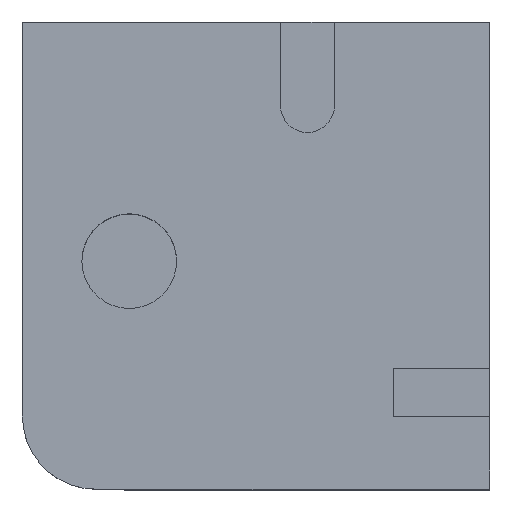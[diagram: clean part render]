
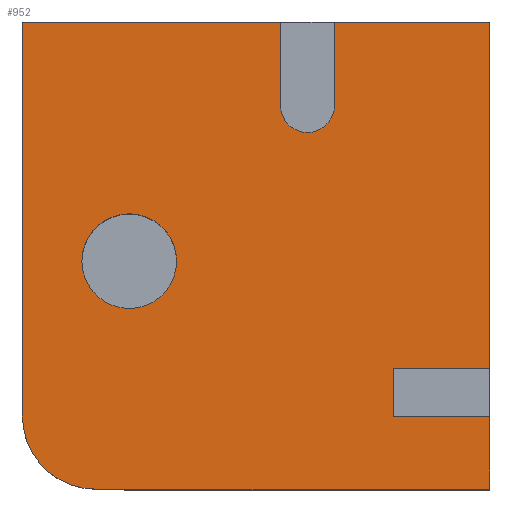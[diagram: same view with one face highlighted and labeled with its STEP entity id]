
A CAD part, top view. The second image highlights one B-rep face of the part: STEP entity #952.
In plain terms, the highlighted planar face has unit normal (0, 0, 1).
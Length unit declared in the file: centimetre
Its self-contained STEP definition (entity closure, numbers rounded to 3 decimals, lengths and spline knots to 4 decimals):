
#13 = LINE ( 'NONE', #1125, #657 ) ;
#14 = CARTESIAN_POINT ( 'NONE',  ( 667.8501, 1000., 1000. ) ) ;
#17 = EDGE_CURVE ( 'NONE', #1257, #1042, #36, .T. ) ;
#28 = EDGE_CURVE ( 'NONE', #159, #1042, #403, .T. ) ;
#36 = LINE ( 'NONE', #506, #847 ) ;
#54 = DIRECTION ( 'NONE',  ( 0., 1., 0. ) ) ;
#61 = EDGE_CURVE ( 'NONE', #1059, #1031, #13, .T. ) ;
#69 = VECTOR ( 'NONE', #1161, 100. ) ;
#71 = CARTESIAN_POINT ( 'NONE',  ( 1000., 1000., 1000. ) ) ;
#88 = VECTOR ( 'NONE', #1023, 100. ) ;
#90 = DIRECTION ( 'NONE',  ( 0., 0., 1. ) ) ;
#96 = DIRECTION ( 'NONE',  ( 1., 0., 0. ) ) ;
#101 = EDGE_CURVE ( 'NONE', #1031, #310, #1112, .T. ) ;
#105 = ORIENTED_EDGE ( 'NONE', *, *, #528, .F. ) ;
#111 = VECTOR ( 'NONE', #647, 100. ) ;
#115 = EDGE_CURVE ( 'NONE', #646, #119, #929, .T. ) ;
#119 = VERTEX_POINT ( 'NONE', #137 ) ;
#137 = CARTESIAN_POINT ( 'NONE',  ( 127.2873, 488.1504, 1000. ) ) ;
#152 = VERTEX_POINT ( 'NONE', #936 ) ;
#159 = VERTEX_POINT ( 'NONE', #550 ) ;
#170 = AXIS2_PLACEMENT_3D ( 'NONE', #1070, #966, #96 ) ;
#178 = CARTESIAN_POINT ( 'NONE',  ( 156.6822, 0., 1000. ) ) ;
#181 = EDGE_CURVE ( 'NONE', #152, #159, #1032, .T. ) ;
#188 = FACE_OUTER_BOUND ( 'NONE', #324, .T. ) ;
#195 = CARTESIAN_POINT ( 'NONE',  ( 794.4697, 155.6549, 1000. ) ) ;
#202 = CARTESIAN_POINT ( 'NONE',  ( 0., 0., 1000. ) ) ;
#211 = CARTESIAN_POINT ( 'NONE',  ( 0., 1000., 1000. ) ) ;
#218 = EDGE_CURVE ( 'NONE', #998, #510, #1260, .T. ) ;
#222 = ORIENTED_EDGE ( 'NONE', *, *, #817, .T. ) ;
#234 = DIRECTION ( 'NONE',  ( 1., 0., 0. ) ) ;
#245 = VECTOR ( 'NONE', #1003, 100. ) ;
#248 = ORIENTED_EDGE ( 'NONE', *, *, #297, .T. ) ;
#257 = CARTESIAN_POINT ( 'NONE',  ( 794.4697, 155.6549, 1000. ) ) ;
#285 = ORIENTED_EDGE ( 'NONE', *, *, #28, .F. ) ;
#297 = EDGE_CURVE ( 'NONE', #310, #661, #797, .T. ) ;
#310 = VERTEX_POINT ( 'NONE', #489 ) ;
#323 = DIRECTION ( 'NONE',  ( 0., 0., 1. ) ) ;
#324 = EDGE_LOOP ( 'NONE', ( #984, #222, #598, #285, #812, #105, #814, #431, #248, #1212, #505, #839, #780 ) ) ;
#335 = LINE ( 'NONE', #449, #88 ) ;
#366 = AXIS2_PLACEMENT_3D ( 'NONE', #424, #323, #234 ) ;
#403 = LINE ( 'NONE', #994, #476 ) ;
#418 = DIRECTION ( 'NONE',  ( 0., 1., 0. ) ) ;
#424 = CARTESIAN_POINT ( 'NONE',  ( 228.6511, 488.1504, 1000. ) ) ;
#429 = VECTOR ( 'NONE', #609, 100. ) ;
#431 = ORIENTED_EDGE ( 'NONE', *, *, #101, .T. ) ;
#438 = EDGE_LOOP ( 'NONE', ( #1198, #1170 ) ) ;
#444 = CARTESIAN_POINT ( 'NONE',  ( 1000., 0., 1000. ) ) ;
#449 = CARTESIAN_POINT ( 'NONE',  ( 794.4697, 155.6549, 1000. ) ) ;
#467 = EDGE_CURVE ( 'NONE', #923, #526, #335, .T. ) ;
#476 = VECTOR ( 'NONE', #418, 100. ) ;
#480 = VECTOR ( 'NONE', #555, 100. ) ;
#489 = CARTESIAN_POINT ( 'NONE',  ( 0., 156.6822, 1000. ) ) ;
#505 = ORIENTED_EDGE ( 'NONE', *, *, #1036, .T. ) ;
#506 = CARTESIAN_POINT ( 'NONE',  ( 0., 1000., 1000. ) ) ;
#510 = VERTEX_POINT ( 'NONE', #1227 ) ;
#520 = LINE ( 'NONE', #702, #245 ) ;
#525 = DIRECTION ( 'NONE',  ( 0., -1., 0. ) ) ;
#526 = VERTEX_POINT ( 'NONE', #947 ) ;
#528 = EDGE_CURVE ( 'NONE', #1059, #152, #1251, .T. ) ;
#537 = DIRECTION ( 'NONE',  ( 0., 0., 1. ) ) ;
#541 = AXIS2_PLACEMENT_3D ( 'NONE', #941, #537, #928 ) ;
#550 = CARTESIAN_POINT ( 'NONE',  ( 667.8501, 821.3425, 1000. ) ) ;
#555 = DIRECTION ( 'NONE',  ( 0., -1., 0. ) ) ;
#594 = CARTESIAN_POINT ( 'NONE',  ( 228.6511, 488.1504, 1000. ) ) ;
#598 = ORIENTED_EDGE ( 'NONE', *, *, #17, .T. ) ;
#609 = DIRECTION ( 'NONE',  ( 1., 0., 0. ) ) ;
#616 = CARTESIAN_POINT ( 'NONE',  ( 0., 0., 1000. ) ) ;
#645 = CARTESIAN_POINT ( 'NONE',  ( 330.0149, 488.1504, 1000. ) ) ;
#646 = VERTEX_POINT ( 'NONE', #645 ) ;
#647 = DIRECTION ( 'NONE',  ( 0., -1., 0. ) ) ;
#657 = VECTOR ( 'NONE', #790, 100. ) ;
#661 = VERTEX_POINT ( 'NONE', #178 ) ;
#682 = AXIS2_PLACEMENT_3D ( 'NONE', #594, #90, #872 ) ;
#701 = VECTOR ( 'NONE', #54, 100. ) ;
#702 = CARTESIAN_POINT ( 'NONE',  ( 1000., 1000., 1000. ) ) ;
#780 = ORIENTED_EDGE ( 'NONE', *, *, #837, .F. ) ;
#790 = DIRECTION ( 'NONE',  ( -1., 0., 0. ) ) ;
#797 = CIRCLE ( 'NONE', #170, 156.6822 ) ;
#812 = ORIENTED_EDGE ( 'NONE', *, *, #181, .F. ) ;
#814 = ORIENTED_EDGE ( 'NONE', *, *, #61, .T. ) ;
#817 = EDGE_CURVE ( 'NONE', #998, #1257, #841, .T. ) ;
#837 = EDGE_CURVE ( 'NONE', #510, #923, #1146, .T. ) ;
#839 = ORIENTED_EDGE ( 'NONE', *, *, #467, .F. ) ;
#841 = LINE ( 'NONE', #956, #701 ) ;
#847 = VECTOR ( 'NONE', #1118, 100. ) ;
#872 = DIRECTION ( 'NONE',  ( 1., 0., 0. ) ) ;
#913 = AXIS2_PLACEMENT_3D ( 'NONE', #202, #967, #1088 ) ;
#923 = VERTEX_POINT ( 'NONE', #195 ) ;
#928 = DIRECTION ( 'NONE',  ( -1., 0., 0. ) ) ;
#929 = CIRCLE ( 'NONE', #366, 101.3638 ) ;
#936 = CARTESIAN_POINT ( 'NONE',  ( 552.3461, 821.3425, 1000. ) ) ;
#941 = CARTESIAN_POINT ( 'NONE',  ( 610.0981, 821.3425, 1000. ) ) ;
#947 = CARTESIAN_POINT ( 'NONE',  ( 1000., 155.6549, 1000. ) ) ;
#952 = ADVANCED_FACE ( 'NONE', ( #188, #1279 ), #975, .T. ) ;
#954 = EDGE_CURVE ( 'NONE', #119, #646, #988, .T. ) ;
#956 = CARTESIAN_POINT ( 'NONE',  ( 1000., 1000., 1000. ) ) ;
#966 = DIRECTION ( 'NONE',  ( 0., 0., 1. ) ) ;
#967 = DIRECTION ( 'NONE',  ( 0., 0., 1. ) ) ;
#975 = PLANE ( 'NONE',  #913 ) ;
#984 = ORIENTED_EDGE ( 'NONE', *, *, #218, .F. ) ;
#988 = CIRCLE ( 'NONE', #682, 101.3638 ) ;
#990 = CARTESIAN_POINT ( 'NONE',  ( 552.3461, 1000., 1000. ) ) ;
#994 = CARTESIAN_POINT ( 'NONE',  ( 667.8501, 1000., 1000. ) ) ;
#998 = VERTEX_POINT ( 'NONE', #1268 ) ;
#1003 = DIRECTION ( 'NONE',  ( 0., 1., 0. ) ) ;
#1008 = CARTESIAN_POINT ( 'NONE',  ( 0., 1000., 1000. ) ) ;
#1023 = DIRECTION ( 'NONE',  ( 1., 0., 0. ) ) ;
#1031 = VERTEX_POINT ( 'NONE', #211 ) ;
#1032 = CIRCLE ( 'NONE', #541, 57.752 ) ;
#1036 = EDGE_CURVE ( 'NONE', #1276, #526, #520, .T. ) ;
#1042 = VERTEX_POINT ( 'NONE', #14 ) ;
#1048 = EDGE_CURVE ( 'NONE', #661, #1276, #1199, .T. ) ;
#1059 = VERTEX_POINT ( 'NONE', #990 ) ;
#1070 = CARTESIAN_POINT ( 'NONE',  ( 156.6822, 156.6822, 1000. ) ) ;
#1088 = DIRECTION ( 'NONE',  ( 1., 0., 0. ) ) ;
#1112 = LINE ( 'NONE', #1008, #1158 ) ;
#1118 = DIRECTION ( 'NONE',  ( -1., 0., 0. ) ) ;
#1125 = CARTESIAN_POINT ( 'NONE',  ( 0., 1000., 1000. ) ) ;
#1146 = LINE ( 'NONE', #257, #111 ) ;
#1158 = VECTOR ( 'NONE', #525, 100. ) ;
#1161 = DIRECTION ( 'NONE',  ( -1., 0., 0. ) ) ;
#1170 = ORIENTED_EDGE ( 'NONE', *, *, #954, .F. ) ;
#1174 = CARTESIAN_POINT ( 'NONE',  ( 794.4697, 258.9622, 1000. ) ) ;
#1198 = ORIENTED_EDGE ( 'NONE', *, *, #115, .F. ) ;
#1199 = LINE ( 'NONE', #616, #429 ) ;
#1212 = ORIENTED_EDGE ( 'NONE', *, *, #1048, .T. ) ;
#1227 = CARTESIAN_POINT ( 'NONE',  ( 794.4697, 258.9622, 1000. ) ) ;
#1244 = CARTESIAN_POINT ( 'NONE',  ( 552.3461, 821.3425, 1000. ) ) ;
#1251 = LINE ( 'NONE', #1244, #480 ) ;
#1257 = VERTEX_POINT ( 'NONE', #71 ) ;
#1260 = LINE ( 'NONE', #1174, #69 ) ;
#1268 = CARTESIAN_POINT ( 'NONE',  ( 1000., 258.9622, 1000. ) ) ;
#1276 = VERTEX_POINT ( 'NONE', #444 ) ;
#1279 = FACE_BOUND ( 'NONE', #438, .T. ) ;
